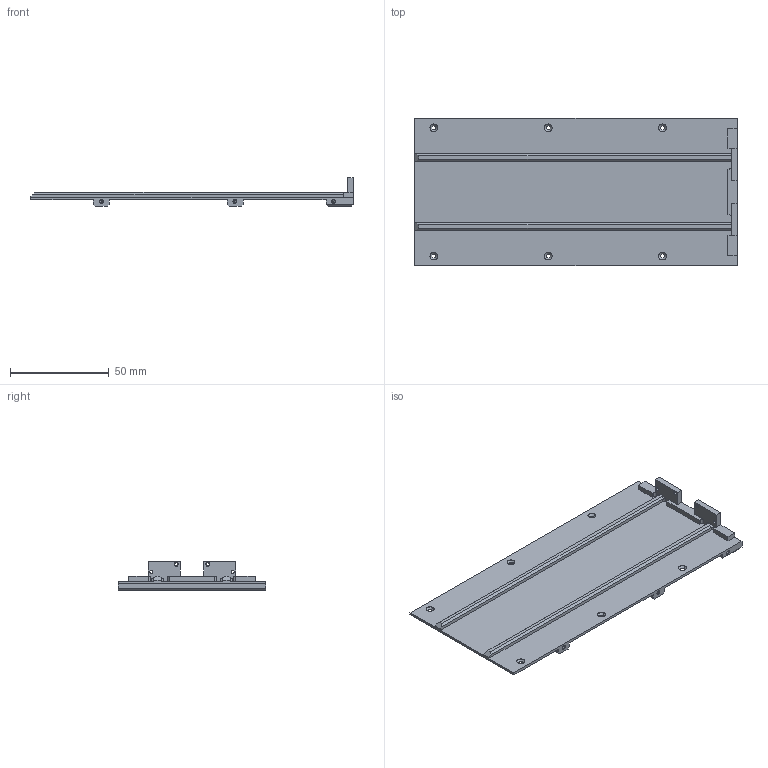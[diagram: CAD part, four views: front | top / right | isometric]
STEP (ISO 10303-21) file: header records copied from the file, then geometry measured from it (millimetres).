
FILE_DESCRIPTION (( 'STEP AP214' ), '1' );
FILE_NAME ('手持盾-电池滑轨.STEP', '2026-09-29T01:05:29', ( '微软用户' ), ( '微软中国' ), 'SwSTEP 2.0', 'SolidWorks 2016', '' );
FILE_SCHEMA (( 'AUTOMOTIVE_DESIGN' ));
Length unit declared in the file: millimetre
Products named in the file (1): 忒厥嗎-萇喀賑寢
Bounding box: 163.6 x 74.6 x 14.7 mm (x, y, z)
Volume: 23588.8 mm3; surface area: 28622.6 mm2
Topology: 1 solids, 1 shells, 166 faces, 424 edges, 254 vertices
Faces by surface type: plane 66, cylinder 52, cone 48
Entity records: 5138 total; most frequent: DIRECTION 870, CARTESIAN_POINT 861, ORIENTED_EDGE 824, EDGE_CURVE 412, AXIS2_PLACEMENT_3D 295, LINE 280, VECTOR 280, VERTEX_POINT 254
